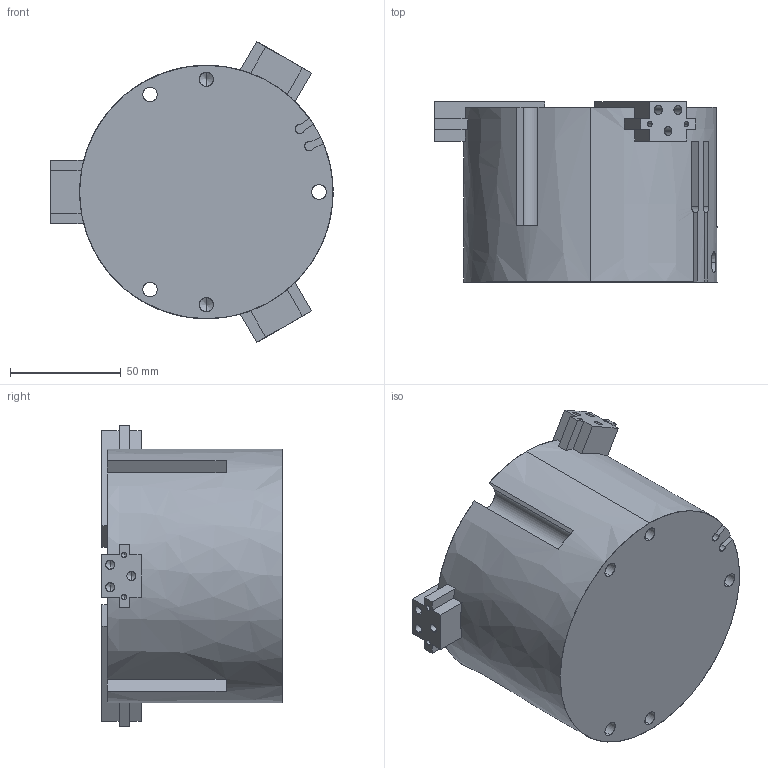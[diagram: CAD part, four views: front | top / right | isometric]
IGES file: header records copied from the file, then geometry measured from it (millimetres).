
Start section: SolidWorks IGES file using analytic representation for surfaces
Global section: file name: C:\Users\jmkuhnes\Pictures\My Transfers\AGP-83\AGP-83 OPEN in IN.IGS; native system: SolidWorks 2013; preprocessor: SolidWorks 2013; author: jmkuhnes; date: 141105.084508; units: inch
Bounding box: 127.25 x 81.28 x 135.65 mm (x, y, z)
Surface area: 81501.1 mm2 (no closed solid volume)
Topology: 0 solids, 0 shells, 252 faces, 3069 edges, 3017 vertices
Faces by surface type: revolution 138, bspline 114
